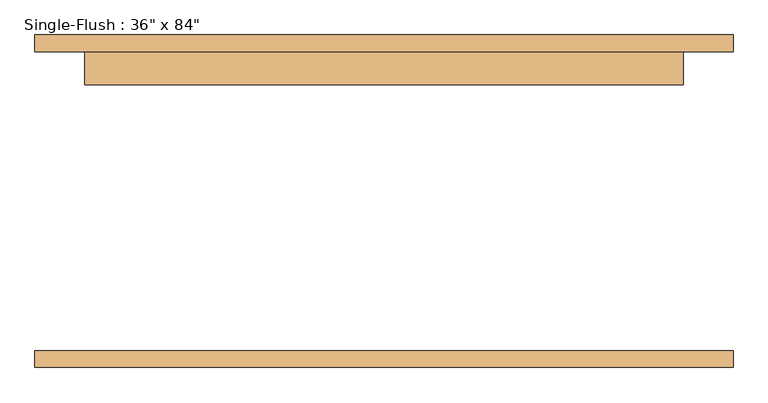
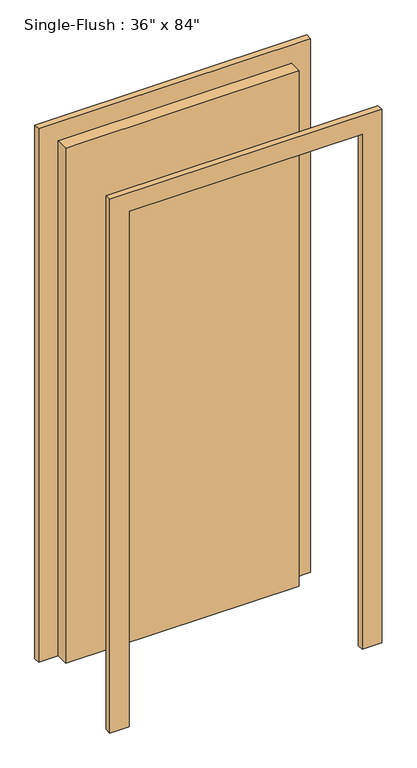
"""IFC4 building model written with IfcOpenShell, lengths in millimetres: door geometry."""

from ifc_helpers import new_model, si_unit, frame, origin, origin_with_axes, place, context, project, spatial, polyline, outline, extrude, source, transform, mapped, element, save


def door_3c99239a(model_context):
    return source(origin(), model_context, "Body", "SweptSolid", [
        extrude(outline(polyline([(2209.8, -533.4), (0.0, -533.4), (0.0, -457.2), (2133.6, -457.2), (2133.6, 457.2), (0.0, 457.2), (0.0, 533.4), (2209.8, 533.4), (2209.8, -533.4)])), frame((0.0, 228.6, 0.0), z_axis=(0.0, 1.0, 0.0), x_axis=(0.0, 0.0, 1.0)), (0.0, 0.0, 1.0), 25.4),
        extrude(outline(polyline([(2209.8, 533.4), (2209.8, -533.4), (0.0, -533.4), (0.0, -457.2), (2133.6, -457.2), (2133.6, 457.2), (0.0, 457.2), (0.0, 533.4), (2209.8, 533.4)])), frame((0.0, -254.0, 0.0), z_axis=(0.0, 1.0, 0.0), x_axis=(0.0, 0.0, 1.0)), (0.0, 0.0, 1.0), 25.4),
        extrude(outline(polyline([(457.2, 177.8), (-457.2, 177.8), (-457.2, 228.6), (457.2, 228.6), (457.2, 177.8)])), origin_with_axes(), (0.0, 0.0, 1.0), 2133.6),
    ])


if __name__ == "__main__":
    model = new_model("IFC4")
    model_context = context("Model", 3, world=origin())
    ifc_project = project(units=[si_unit("LENGTHUNIT", "METRE", prefix="MILLI")], contexts=[model_context])
    site = spatial("IfcSite", under=ifc_project)
    building = spatial("IfcBuilding", under=site)
    placement = place(None, origin())
    door_shape = door_3c99239a(model_context)
    element("IfcDoor", 1, ObjectType="Single-Flush : 36\" x 84\"", at=placement, inside=building, context=model_context, shape_type="MappedRepresentation", body=[
        mapped(door_shape, transform((0.0, 0.0, 0.0), x_axis=(1.0, 0.0, 0.0), y_axis=(0.0, 1.0, 0.0), z_axis=(0.0, 0.0, 1.0))),
    ])
    save(model, "model.ifc")
